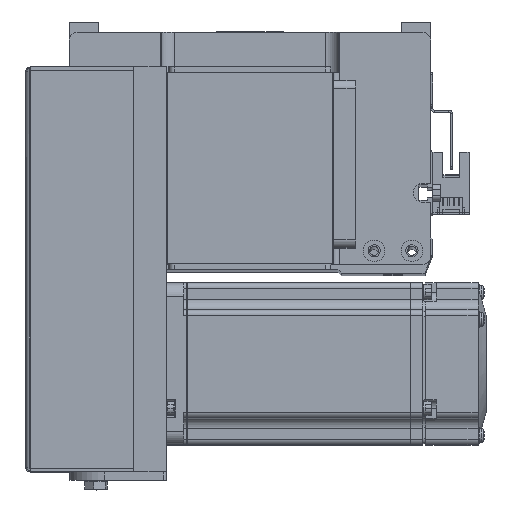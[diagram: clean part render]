
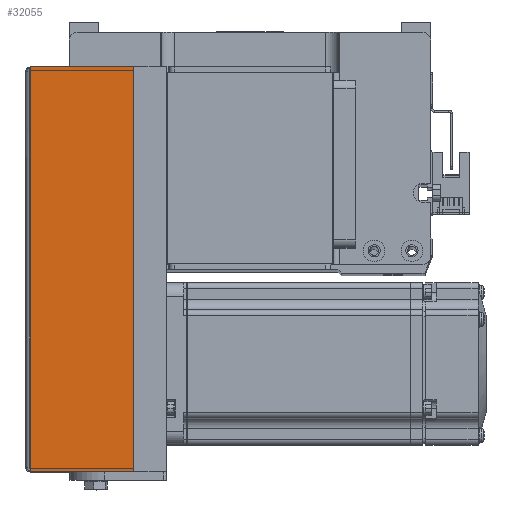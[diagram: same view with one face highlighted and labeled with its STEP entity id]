
A CAD part, top view. The second image highlights one B-rep face of the part: STEP entity #32055.
In plain terms, the highlighted planar face has unit normal (0, 0, 1) as drawn and (0, -1, 0) by its records, which use the part's own axes.
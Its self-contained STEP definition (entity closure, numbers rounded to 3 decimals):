
#955 = CARTESIAN_POINT ( 'NONE',  ( -75., -36., 50.3 ) ) ;
#1376 = VERTEX_POINT ( 'NONE', #955 ) ;
#2540 = VECTOR ( 'NONE', #28870, 1000. ) ;
#3432 = VERTEX_POINT ( 'NONE', #14476 ) ;
#5117 = ORIENTED_EDGE ( 'NONE', *, *, #16684, .T. ) ;
#5359 = DIRECTION ( 'NONE',  ( 0., 0., -1. ) ) ;
#5637 = ORIENTED_EDGE ( 'NONE', *, *, #33413, .F. ) ;
#6040 = LINE ( 'NONE', #19870, #2540 ) ;
#6478 = LINE ( 'NONE', #18172, #20828 ) ;
#7107 = EDGE_CURVE ( 'NONE', #1376, #8985, #37915, .T. ) ;
#8423 = PLANE ( 'NONE',  #17090 ) ;
#8892 = ORIENTED_EDGE ( 'NONE', *, *, #7107, .T. ) ;
#8985 = VERTEX_POINT ( 'NONE', #18151 ) ;
#10301 = LINE ( 'NONE', #36627, #17322 ) ;
#11319 = CARTESIAN_POINT ( 'NONE',  ( 0., -36., 50.8 ) ) ;
#11415 = CARTESIAN_POINT ( 'NONE',  ( -75., -36., 50.3 ) ) ;
#11674 = FACE_OUTER_BOUND ( 'NONE', #24472, .T. ) ;
#14410 = CARTESIAN_POINT ( 'NONE',  ( 75., -36., 50.3 ) ) ;
#14475 = DIRECTION ( 'NONE',  ( 0., 0., -1. ) ) ;
#14476 = CARTESIAN_POINT ( 'NONE',  ( 75., -36., 12. ) ) ;
#15795 = EDGE_CURVE ( 'NONE', #1376, #17507, #6040, .T. ) ;
#16684 = EDGE_CURVE ( 'NONE', #8985, #3432, #10301, .T. ) ;
#17090 = AXIS2_PLACEMENT_3D ( 'NONE', #11319, #34939, #5359 ) ;
#17322 = VECTOR ( 'NONE', #25616, 1000. ) ;
#17507 = VERTEX_POINT ( 'NONE', #14410 ) ;
#17593 = DIRECTION ( 'NONE',  ( 0., 0., -1. ) ) ;
#18151 = CARTESIAN_POINT ( 'NONE',  ( -75., -36., 12. ) ) ;
#18172 = CARTESIAN_POINT ( 'NONE',  ( 75., -36., 50.3 ) ) ;
#19870 = CARTESIAN_POINT ( 'NONE',  ( 75., -36., 50.3 ) ) ;
#20828 = VECTOR ( 'NONE', #17593, 1000. ) ;
#21555 = VECTOR ( 'NONE', #14475, 1000. ) ;
#24472 = EDGE_LOOP ( 'NONE', ( #37729, #8892, #5117, #5637 ) ) ;
#25616 = DIRECTION ( 'NONE',  ( 1., 0., 0. ) ) ;
#28870 = DIRECTION ( 'NONE',  ( 1., 0., 0. ) ) ;
#32055 = ADVANCED_FACE ( 'NONE', ( #11674 ), #8423, .F. ) ;
#33413 = EDGE_CURVE ( 'NONE', #17507, #3432, #6478, .T. ) ;
#34939 = DIRECTION ( 'NONE',  ( 0., 1., 0. ) ) ;
#36627 = CARTESIAN_POINT ( 'NONE',  ( 0., -36., 12. ) ) ;
#37729 = ORIENTED_EDGE ( 'NONE', *, *, #15795, .F. ) ;
#37915 = LINE ( 'NONE', #11415, #21555 ) ;
